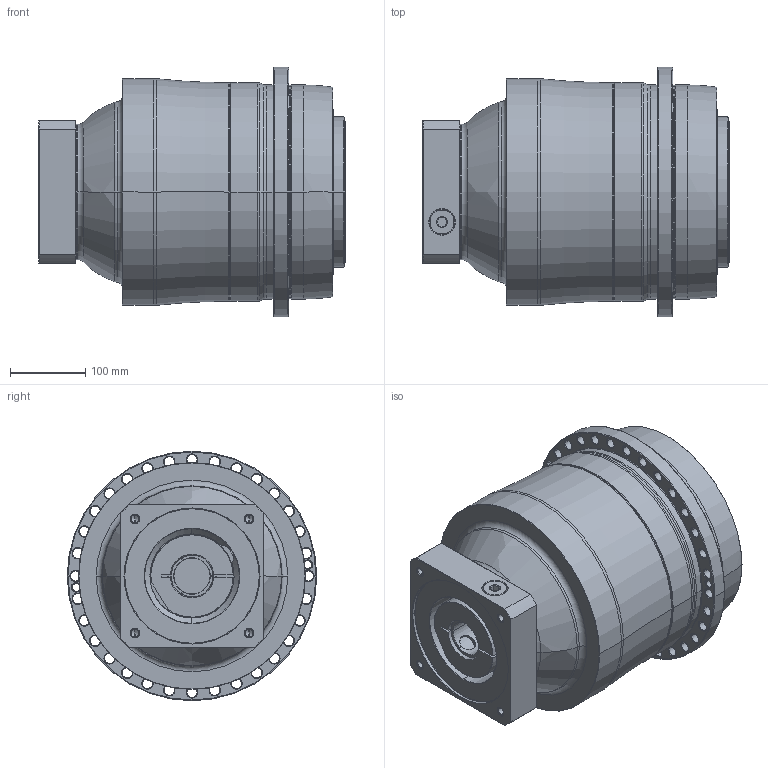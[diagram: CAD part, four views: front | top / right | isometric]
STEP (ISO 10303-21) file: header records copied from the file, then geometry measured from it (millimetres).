
FILE_DESCRIPTION((''),'2;1');
FILE_NAME('AP285_3ST_48-P0409B10201_ASM','2018-06-07T',('d01226'),(''),'PRO/ENGINEER BY PARAMETRIC TECHNOLOGY CORPORATION, 2008410','PRO/ENGINEER BY PARAMETRIC TECHNOLOGY CORPORATION, 2008410','');
FILE_SCHEMA(('CONFIG_CONTROL_DESIGN'));
Length unit declared in the file: millimetre
Products named in the file (9): P0278801003; P0359801103; P1366800401; P0503B00016; P0912654001; P1211800001; P0409B10201; 21711426021; AP285_3ST_48-P0409B10201_ASM
Assembly tree (8 placements, depth 2):
  AP285_3ST_48-P0409B10201_ASM
    P0278801003
    P0359801103
    P1366800401
    P0503B00016
    P0912654001
    P1211800001
    P0409B10201
    21711426021
Bounding box: 407.5 x 332 x 332 mm (x, y, z)
Volume: 22631653.5 mm3; surface area: 1061767.9 mm2
Topology: 9 solids, 32 shells, 673 faces, 1563 edges, 950 vertices
Faces by surface type: cylinder 267, cone 216, plane 98, torus 76, bspline 16
Entity records: 24429 total; most frequent: CARTESIAN_POINT 8267, DIRECTION 3719, ORIENTED_EDGE 3016, AXIS2_PLACEMENT_3D 1586, EDGE_CURVE 1555, VERTEX_POINT 950, CIRCLE 900, EDGE_LOOP 829
